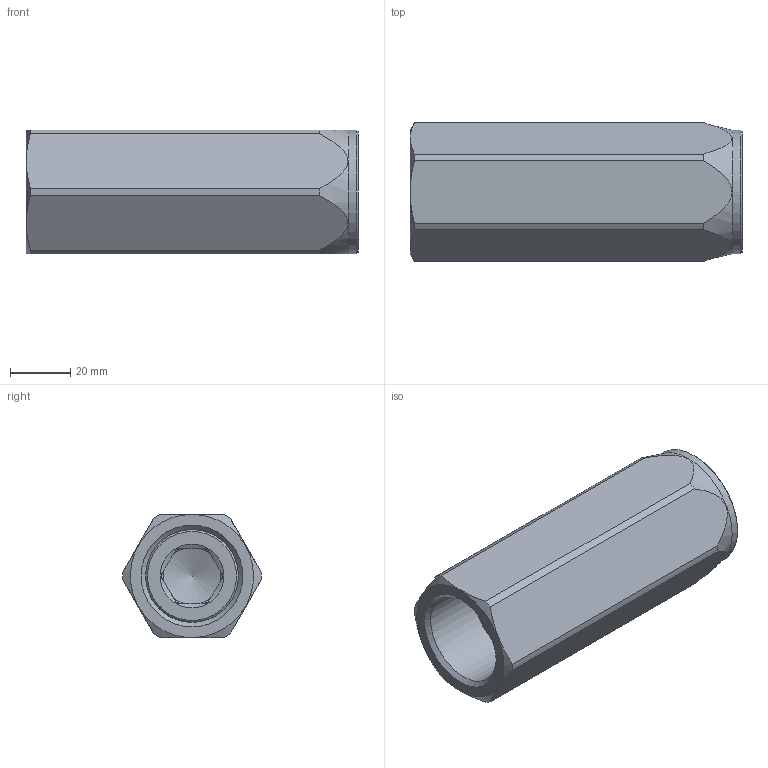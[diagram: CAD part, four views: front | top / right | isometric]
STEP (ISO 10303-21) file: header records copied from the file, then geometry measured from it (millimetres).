
FILE_DESCRIPTION (( 'STEP AP214' ), '1' );
FILE_NAME ('VUR100.STEP', '2020-06-12T11:36:43', ( '' ), ( '' ), 'SwSTEP 2.0', 'SolidWorks 2017', '' );
FILE_SCHEMA (( 'AUTOMOTIVE_DESIGN' ));
Length unit declared in the file: millimetre
Products named in the file (1): VUR100
Bounding box: 110 x 45.99 x 41 mm (x, y, z)
Volume: 94994.4 mm3; surface area: 40727.5 mm2
Topology: 4 solids, 4 shells, 75 faces, 169 edges, 105 vertices
Faces by surface type: plane 26, cylinder 23, cone 18, bspline 5, torus 3
Full cylindrical faces by diameter (mm): 9.5 x4, 19 x1, 20 x1, 24 x2, 24.5 x1, 29 x2, 30.75 x2, 31 x1, 33.249 x1, 34 x1, 40.8 x1
Entity records: 5870 total; most frequent: CARTESIAN_POINT 3556, DIRECTION 285, ORIENTED_EDGE 234, EDGE_LOOP 132, AXIS2_PLACEMENT_3D 130, EDGE_CURVE 117, FACE_OUTER_BOUND 97, VERTEX_POINT 95
